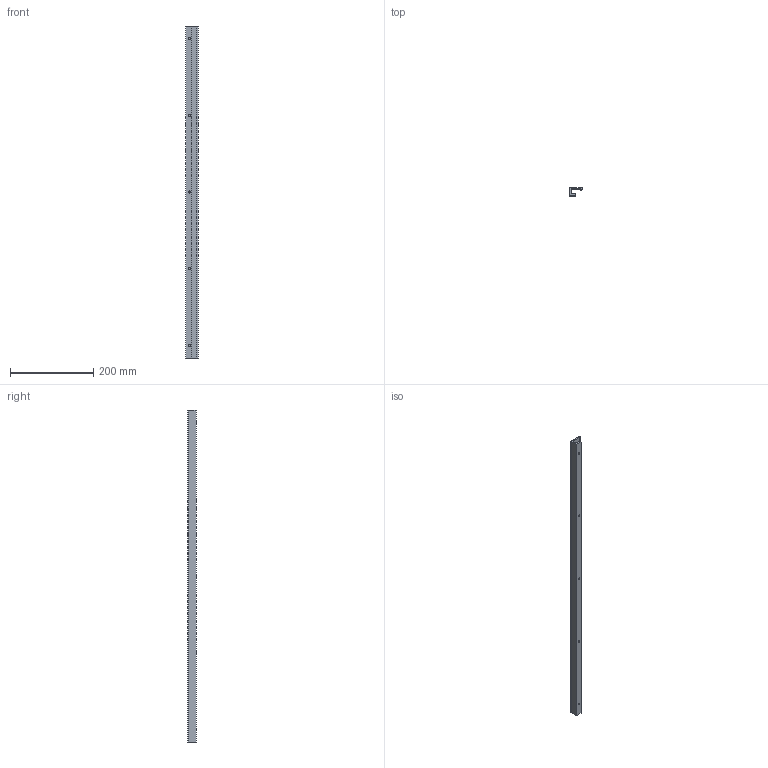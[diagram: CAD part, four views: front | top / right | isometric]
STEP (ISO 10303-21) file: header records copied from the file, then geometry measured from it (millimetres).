
FILE_DESCRIPTION (( 'STEP AP203' ), '1' );
FILE_NAME ('ETP-121-10.STEP', '2013-09-30T03:38:58', ( 'Tada' ), ( 'Tada Sekkei' ), 'SwSTEP 2.0', 'SolidWorks 2002296', '' );
FILE_SCHEMA (( 'CONFIG_CONTROL_DESIGN' ));
Length unit declared in the file: millimetre
Products named in the file (1): ETP-121-10
Bounding box: 30 x 20 x 800 mm (x, y, z)
Volume: 173562.5 mm3; surface area: 96967.9 mm2
Topology: 1 solids, 1 shells, 27 faces, 75 edges, 50 vertices
Faces by surface type: cylinder 17, plane 10
Entity records: 980 total; most frequent: DIRECTION 165, CARTESIAN_POINT 153, ORIENTED_EDGE 150, EDGE_CURVE 75, AXIS2_PLACEMENT_3D 62, VERTEX_POINT 50, LINE 41, VECTOR 41
